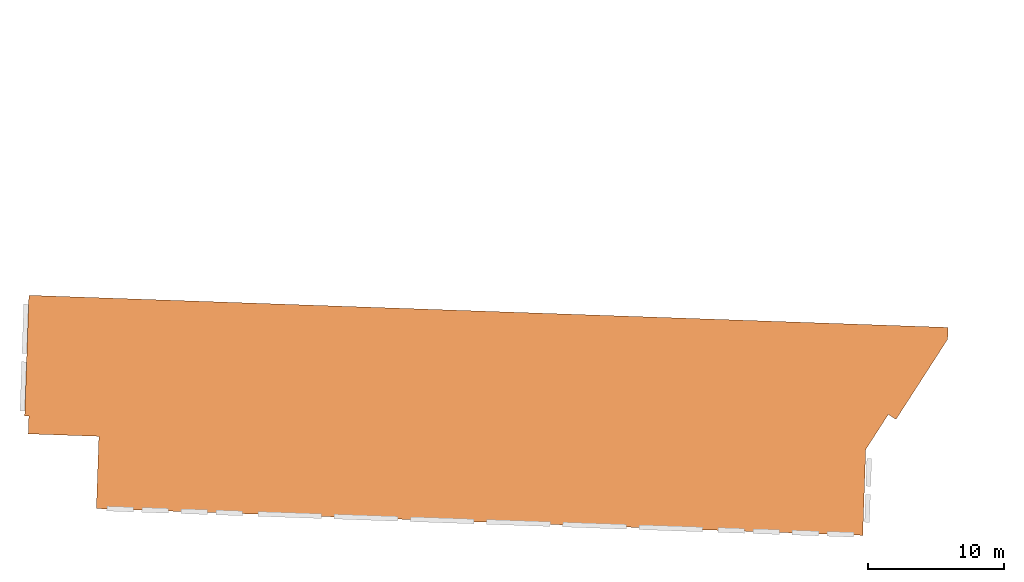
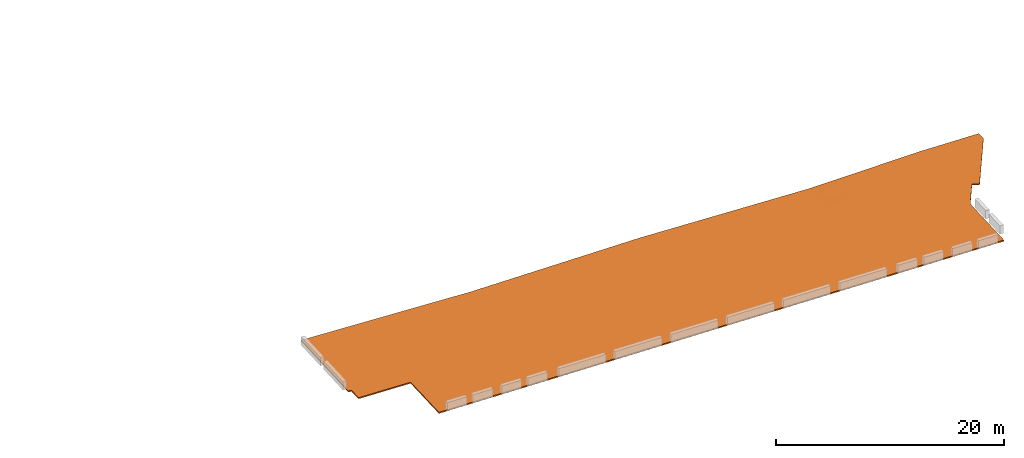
# One storey, part 7 of 8: 1 proxy.
"""IFC2X3 building model written with IfcOpenShell, lengths in feet."""

import ifcopenshell
import ifcopenshell.guid

model = None  # the IFC model being written
_history = None  # IfcOwnerHistory: only IFC2X3 demands one
_inside = {}  # id of a spatial element -> (the spatial element, [elements in it])
_under = {}  # id of a project, library or spatial element -> (it, [spatial elements below it])
_declared = {}  # id of a project -> (the project, [libraries it declares])
_typed = {}  # id of a type object -> (the type object, [elements of that type])
_made_of = {}  # id of a material, layer set ... -> (it, [elements and type objects made of it])


def new_model(schema):
    """Start an empty IFC model of exactly this schema.

    Asked for "IFC4X3", IfcOpenShell would pick the latest addendum, in which some entities
    have other attributes; the version numbers below select the first issue.
    IFC2X3 requires an IfcOwnerHistory on every rooted entity: one is made here for all.
    """
    global model, _history
    if schema == "IFC4X3":
        model = ifcopenshell.file(schema_version=(4, 3, 0, 0))
    else:
        model = ifcopenshell.file(schema=schema)
    _inside.clear()
    _under.clear()
    _declared.clear()
    _typed.clear()
    _made_of.clear()
    _history = None
    if model.schema == "IFC2X3":
        org = make("IfcOrganization", Name="unknown")
        user = make(
            "IfcPersonAndOrganization",
            ThePerson=make("IfcPerson", FamilyName="unknown"),
            TheOrganization=org,
        )
        app = make(
            "IfcApplication",
            ApplicationDeveloper=org,
            Version="unknown",
            ApplicationFullName="unknown",
            ApplicationIdentifier="unknown",
        )
        _history = make(
            "IfcOwnerHistory",
            OwningUser=user,
            OwningApplication=app,
            ChangeAction="ADDED",
            CreationDate=0,
        )
    return model


def make(cls, **values):
    """One entity of the class cls with the attributes given. An attribute that is None is left unset."""
    return model.create_entity(
        cls, **{name: value for name, value in values.items() if value is not None}
    )


def entity(cls, *values):
    """Any entity or typed value of the class cls, its attributes in the order of the schema. None: left unset."""
    e = model.create_entity(cls)
    for i, value in enumerate(values):
        if value is not None:
            e[i] = value
    return e


def rooted(cls, **values):
    """An entity with a GlobalId (a new one), such as an element, a storey or a relation."""
    return make(cls, GlobalId=ifcopenshell.guid.new(), OwnerHistory=_history, **values)


def si_unit(unit_type, name, prefix=None):
    """IfcSIUnit, for example si_unit("LENGTHUNIT", "METRE", prefix="MILLI")."""
    return make("IfcSIUnit", UnitType=unit_type, Prefix=prefix, Name=name)


def converted_unit(unit_type, name, factor, base, dimensions=None, offset=None):
    """IfcConversionBasedUnit, such as the inch: factor (a typed value) times the base unit."""
    return make(
        "IfcConversionBasedUnit"
        if offset is None
        else "IfcConversionBasedUnitWithOffset",
        ConversionOffset=offset,
        Dimensions=None
        if dimensions is None
        else entity("IfcDimensionalExponents", *dimensions),
        UnitType=unit_type,
        Name=name,
        ConversionFactor=make(
            "IfcMeasureWithUnit", ValueComponent=factor, UnitComponent=base
        ),
    )


def derived_unit(unit_type, elements):
    """IfcDerivedUnit: a product of units, each with its exponent."""
    return make(
        "IfcDerivedUnit",
        Elements=[
            make("IfcDerivedUnitElement", Unit=unit, Exponent=power)
            for unit, power in elements
        ],
        UnitType=unit_type,
    )


def assignment(units):
    """IfcUnitAssignment: the units of a project."""
    return None if units is None else make("IfcUnitAssignment", Units=units)


def point(xyz):
    """IfcCartesianPoint."""
    return None if xyz is None else make("IfcCartesianPoint", Coordinates=xyz)


def direction(xyz):
    """IfcDirection."""
    return None if xyz is None else make("IfcDirection", DirectionRatios=xyz)


def frame(location, z_axis=None, x_axis=None):
    """IfcAxis2Placement3D, a coordinate frame: its origin and axes. An axis left out is left unset."""
    return make(
        "IfcAxis2Placement3D",
        Location=point(location),
        Axis=direction(z_axis),
        RefDirection=direction(x_axis),
    )


def origin():
    """The frame at (0, 0, 0) with its axes left unset."""
    return frame((0.0, 0.0, 0.0))


def place(relative_to, where):
    """IfcLocalPlacement: puts the frame where relative to a parent placement (None: the world)."""
    return make(
        "IfcLocalPlacement", PlacementRelTo=relative_to, RelativePlacement=where
    )


def context(
    kind, dimensions, precision=None, world=None, true_north=None, identifier=None
):
    """IfcGeometricRepresentationContext, for example the 3D "Model" context."""
    return make(
        "IfcGeometricRepresentationContext",
        ContextIdentifier=identifier,
        ContextType=kind,
        CoordinateSpaceDimension=dimensions,
        Precision=precision,
        WorldCoordinateSystem=world,
        TrueNorth=true_north,
    )


def subcontext(parent, identifier, kind, view, scale=None):
    """IfcGeometricRepresentationSubContext, for example "Body" below "Model"."""
    return make(
        "IfcGeometricRepresentationSubContext",
        ContextIdentifier=identifier,
        ContextType=kind,
        ParentContext=parent,
        TargetScale=scale,
        TargetView=view,
    )


def project(units=None, contexts=None):
    """IfcProject with its units and contexts."""
    return rooted(
        "IfcProject",
        Name="project",
        RepresentationContexts=contexts,
        UnitsInContext=assignment(units),
    )


def spatial(cls, under=None, at=None, **own):
    """A site, building, storey or space (cls), placed at a placement, below another one or the project."""
    s = rooted(cls, ObjectPlacement=at, **own)
    if under is not None:
        _under.setdefault(under.id(), (under, []))[1].append(s)
    return s


def faces_of(points, faces, orient=None, outer=None):
    """IfcFace entities. A face is a list of loops; a loop is a list of indices into points, from 0.

    orient and outer hold one flag for each loop. By default every Orientation is true, the
    first loop of a face is its IfcFaceOuterBound and the others are IfcFaceBound.
    """
    made = []
    for i, loops in enumerate(faces):
        bounds = []
        for j, loop in enumerate(loops):
            is_outer = j == 0 if outer is None else outer[i][j]
            bounds.append(
                make(
                    "IfcFaceOuterBound" if is_outer else "IfcFaceBound",
                    Bound=make("IfcPolyLoop", Polygon=[points[k] for k in loop]),
                    Orientation=True if orient is None else orient[i][j],
                )
            )
        made.append(make("IfcFace", Bounds=bounds))
    return made


def faceted_brep(points, faces, orient=None, outer=None, voids=None):
    """IfcFacetedBrep: a solid bounded by flat faces; with voids (closed shells), ...WithVoids."""
    shared = [point(p) for p in points]
    hull = make("IfcClosedShell", CfsFaces=faces_of(shared, faces, orient, outer))
    if voids is None:
        return make("IfcFacetedBrep", Outer=hull)
    return make(
        "IfcFacetedBrepWithVoids",
        Outer=hull,
        Voids=[
            make(cls, CfsFaces=faces_of(shared, fs, o, b)) for cls, fs, o, b in voids
        ],
    )


def shape(context_of_items, identifier, shape_type, items):
    """IfcShapeRepresentation: the items that make up one representation, for example the "Body"."""
    return make(
        "IfcShapeRepresentation",
        ContextOfItems=context_of_items,
        RepresentationIdentifier=identifier,
        RepresentationType=shape_type,
        Items=items,
    )


def source(mapping_origin, context_of_items, identifier, shape_type, items):
    """IfcRepresentationMap: a shape defined once, which mapped items show again and again."""
    return make(
        "IfcRepresentationMap",
        MappingOrigin=mapping_origin,
        MappedRepresentation=shape(context_of_items, identifier, shape_type, items),
    )


def transform(
    local_origin,
    x_axis=None,
    y_axis=None,
    z_axis=None,
    scale=None,
    scale2=None,
    scale3=None,
    uniform=True,
):
    """IfcCartesianTransformationOperator3D, or its non-uniform kind. x_axis, y_axis, z_axis: its Axis1, 2, 3."""
    if uniform:
        return make(
            "IfcCartesianTransformationOperator3D",
            Axis1=direction(x_axis),
            Axis2=direction(y_axis),
            LocalOrigin=point(local_origin),
            Scale=scale,
            Axis3=direction(z_axis),
        )
    return make(
        "IfcCartesianTransformationOperator3DnonUniform",
        Axis1=direction(x_axis),
        Axis2=direction(y_axis),
        LocalOrigin=point(local_origin),
        Scale=scale,
        Axis3=direction(z_axis),
        Scale2=scale2,
        Scale3=scale3,
    )


def mapped(mapping_source, mapping_target):
    """IfcMappedItem: shows the shape of a source again, moved by a transform."""
    return make(
        "IfcMappedItem", MappingSource=mapping_source, MappingTarget=mapping_target
    )


def material(Name=None, Category=None):
    """IfcMaterial."""
    return make("IfcMaterial", Name=Name, Category=Category)


def made_of(thing, what):
    """Note that an element or type object is made of a material, layer set ...; save() writes the relation."""
    if what is not None:
        _made_of.setdefault(what.id(), (what, []))[1].append(thing)
    return thing


def type_object(cls, material=None, **own):
    """A type object (cls), such as IfcWallType, which elements share."""
    return made_of(rooted(cls, **own), material)


def type_shapes(of_type, sources):
    """Give a type object the sources (RepresentationMaps) that its elements show as mapped items."""
    of_type.RepresentationMaps = sources


def element(
    cls,
    number,
    at=None,
    inside=None,
    cuts=None,
    type_object=None,
    material=None,
    context=None,
    identifier="Body",
    shape_type=None,
    held_by="IfcProductDefinitionShape",
    body=None,
    shapes=None,
    **own,
):
    """One element of the class cls, such as IfcWall. Its Tag is "e" and its number.

    at: its placement. inside: the storey or other place that contains it. cuts: it is an
    opening in that element (IfcRelVoidsElement). A single representation is given by context,
    identifier, shape_type and body (its items); several are given by shapes. held_by: the class
    of the entity that holds the representations. save() writes the other relations.
    """
    e = rooted(cls, Tag="e%d" % number, ObjectPlacement=at, **own)
    if body is not None:
        shapes = [shape(context, identifier, shape_type, body)]
    if shapes is not None:
        e.Representation = make(held_by, Representations=shapes)
    if inside is not None:
        _inside.setdefault(inside.id(), (inside, []))[1].append(e)
    if cuts is not None:
        rooted(
            "IfcRelVoidsElement", RelatingBuildingElement=cuts, RelatedOpeningElement=e
        )
    if type_object is not None:
        _typed.setdefault(type_object.id(), (type_object, []))[1].append(e)
    return made_of(e, material)


def aggregate(whole, parts):
    """IfcRelAggregates: a whole, such as a stair, and the parts it consists of."""
    return rooted("IfcRelAggregates", RelatingObject=whole, RelatedObjects=parts)


def save(model, path):
    """Write the relations noted so far, then the file.

    IfcRelAggregates (storeys below a building ...), IfcRelContainedInSpatialStructure (elements
    in a storey), IfcRelDefinesByType, IfcRelAssociatesMaterial and IfcRelDeclares: one each for
    every whole, place, type object, material and project.
    """
    for whole, parts in _under.values():
        aggregate(whole, parts)
    for where, things in _inside.values():
        rooted(
            "IfcRelContainedInSpatialStructure",
            RelatedElements=things,
            RelatingStructure=where,
        )
    for kind, things in _typed.values():
        rooted("IfcRelDefinesByType", RelatedObjects=things, RelatingType=kind)
    for what, things in _made_of.values():
        rooted("IfcRelAssociatesMaterial", RelatedObjects=things, RelatingMaterial=what)
    for by, libraries in _declared.values():
        rooted("IfcRelDeclares", RelatingContext=by, RelatedDefinitions=libraries)
    model.write(path)


model = new_model("IFC2X3")

# Units and contexts
model_context = context("Model", 3, precision=0.0001, world=origin(), true_north=direction((0.999390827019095, 0.0348994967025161)))
body_context = subcontext(model_context, "Body", "Model", "MODEL_VIEW")
ifc_project = project(units=[converted_unit("LENGTHUNIT", "FOOT", entity("IfcRatioMeasure", 0.3048), si_unit("LENGTHUNIT", "METRE"), dimensions=[1, 0, 0, 0, 0, 0, 0]), converted_unit("AREAUNIT", "SQUARE FOOT", entity("IfcRatioMeasure", 0.09290304), si_unit("AREAUNIT", "SQUARE_METRE"), dimensions=[2, 0, 0, 0, 0, 0, 0]), converted_unit("VOLUMEUNIT", "CUBIC FOOT", entity("IfcRatioMeasure", 0.028316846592), si_unit("VOLUMEUNIT", "CUBIC_METRE"), dimensions=[3, 0, 0, 0, 0, 0, 0]), converted_unit("PLANEANGLEUNIT", "DEGREE", entity("IfcRatioMeasure", 0.0174532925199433), si_unit("PLANEANGLEUNIT", "RADIAN"), dimensions=[0, 0, 0, 0, 0, 0, 0]), si_unit("MASSUNIT", "GRAM", prefix="KILO"), si_unit("TIMEUNIT", "SECOND"), si_unit("FREQUENCYUNIT", "HERTZ"), si_unit("THERMODYNAMICTEMPERATUREUNIT", "DEGREE_CELSIUS"), derived_unit("THERMALTRANSMITTANCEUNIT", [(si_unit("MASSUNIT", "GRAM", prefix="KILO"), 1), (si_unit("THERMODYNAMICTEMPERATUREUNIT", "KELVIN"), -1), (si_unit("TIMEUNIT", "SECOND"), -3)]), derived_unit("VOLUMETRICFLOWRATEUNIT", [(si_unit("LENGTHUNIT", "METRE"), 3), (si_unit("TIMEUNIT", "SECOND"), -1)]), si_unit("ELECTRICCURRENTUNIT", "AMPERE"), si_unit("ELECTRICVOLTAGEUNIT", "VOLT"), si_unit("POWERUNIT", "WATT"), si_unit("FORCEUNIT", "NEWTON"), si_unit("ILLUMINANCEUNIT", "LUX"), si_unit("LUMINOUSFLUXUNIT", "LUMEN"), si_unit("LUMINOUSINTENSITYUNIT", "CANDELA"), derived_unit("USERDEFINED", [(si_unit("MASSUNIT", "GRAM", prefix="KILO"), -1), (si_unit("LENGTHUNIT", "METRE"), -2), (si_unit("TIMEUNIT", "SECOND"), 3), (si_unit("LUMINOUSFLUXUNIT", "LUMEN"), 1)]), derived_unit("LINEARVELOCITYUNIT", [(si_unit("LENGTHUNIT", "METRE"), 1), (si_unit("TIMEUNIT", "SECOND"), -1)]), si_unit("PRESSUREUNIT", "PASCAL"), derived_unit("USERDEFINED", [(si_unit("LENGTHUNIT", "METRE"), -2), (si_unit("MASSUNIT", "GRAM", prefix="KILO"), 1), (si_unit("TIMEUNIT", "SECOND"), -2)])], contexts=[model_context])

# Site, building, storey
site_placement = place(None, frame((892.518771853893, 322.38689265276, 0.00393700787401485), z_axis=(0.0, 0.0, 1.0), x_axis=(0.0348994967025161, 0.999390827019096, 0.0)))
site = spatial("IfcSite", under=ifc_project, at=site_placement, Name="Default", CompositionType="ELEMENT")
building_placement = place(site_placement, origin())
building = spatial("IfcBuilding", under=site, at=building_placement, CompositionType="ELEMENT")
storey_placement = place(building_placement, frame((0.0, 0.0, 607.0)))
storey = spatial("IfcBuildingStorey", under=building, at=storey_placement, Name="Existing Garage - Roof Level", CompositionType="ELEMENT", Elevation=607.0)

# Proxy
ifc_material = material(Name="Conc Slab")
building_element_proxy_type = type_object("IfcBuildingElementProxyType", Name="URMC Exist Garage A1-G4 1st Floor", PredefinedType="NOTDEFINED", material=ifc_material)
shared_shape = source(origin(), body_context, "Body", "Brep", [
    faceted_brep([(-20.0, -55.0, -0.41666666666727), (-10.0, -55.0, -0.651666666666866), (-5.0, -55.0, -0.769166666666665), (0.0, -55.0, -0.886666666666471), (7.5000000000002, -55.0, -1.06166666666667), (15.0, -55.0, -1.23666666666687), (22.1905010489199, -55.0, -1.40444502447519), (26.09525052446, -55.0, -1.49555584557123), (30.0, -55.0, -1.58666666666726), (30.0, -55.0, -1.1700000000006), (22.8094989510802, -55.0, -1.00222164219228), (18.9047494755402, -55.0, -0.911110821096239), (15.0, -55.0, -0.8200000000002), (7.5000000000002, -55.0, -0.645000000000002), (0.0, -55.0, -0.469999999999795), (-10.0, -55.0, -0.235000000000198), (-13.9877755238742, -55.0, -0.141287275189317), (-20.0, -55.0, 0.0), (-20.6666666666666, -55.0, 0.0), (-20.6666666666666, -55.0, -0.416666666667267), (30.0, 0.333333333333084, -0.416666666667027), (22.8094991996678, 0.333333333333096, -0.416666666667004), (18.904749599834, 0.333333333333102, -0.416666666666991), (15.0, 0.333333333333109, -0.416666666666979), (8.80986514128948, 0.333333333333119, -0.416666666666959), (4.90493257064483, 0.333333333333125, -0.416666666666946), (1.0, 0.333333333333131, -0.416666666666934), (1.0, 0.333333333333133, 0.0), (4.90493259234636, 0.333333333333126, 0.0), (8.80986518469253, 0.33333333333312, 0.0), (15.0, 0.33333333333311, 0.0), (22.1905008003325, 0.333333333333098, 0.0), (26.0952504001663, 0.333333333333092, 0.0), (30.0, 0.333333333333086, 0.0), (-20.6666666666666, -17.6666666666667, 0.0), (-20.6666666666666, -17.6666666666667, -0.416666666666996), (-20.0, -17.6666666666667, -0.416666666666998), (-20.0, -34.3004878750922, -0.416666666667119), (-12.5740740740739, -17.6666666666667, -0.473434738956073), (-10.7175925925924, -17.6666666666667, -0.487626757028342), (-8.86111111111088, -17.6666666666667, -0.501818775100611), (-11.6458347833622, -36.5226943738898, -0.547431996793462), (-16.2870370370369, -17.6666666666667, -0.445050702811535), (-14.4305555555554, -17.6666666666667, -0.459242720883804), (-3.29166666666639, -17.6666666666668, -0.544394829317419), (0.0, -14.250000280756, -0.540537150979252), (0.0, -15.0715290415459, -0.547515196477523), (0.0, -27.8333333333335, -0.6559136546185), (-3.29166666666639, -13.888888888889, -0.517587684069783), (-3.29166666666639, -12.0, -0.504184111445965), (-3.29166666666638, -10.1111111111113, -0.490780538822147), (-3.29166666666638, -8.22222222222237, -0.477376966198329), (-3.29166666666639, -15.7777777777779, -0.530991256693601), (-5.14814814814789, -17.6666666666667, -0.530202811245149), (-5.59903228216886, -34.4748037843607, -0.629555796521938), (-7.00462962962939, -17.6666666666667, -0.51601079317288), (-18.1435185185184, -17.6666666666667, -0.430858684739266), (0.0, -29.476391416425, -0.669869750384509), (-3.29166666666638, -4.44444444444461, -0.450569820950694), (-3.29166666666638, -2.55555555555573, -0.437166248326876), (-3.29166666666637, -0.666666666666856, -0.423762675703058), (-2.92592592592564, -0.666666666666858, -0.423918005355), (-2.56018518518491, -0.666666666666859, -0.424073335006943), (-2.19444444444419, -0.66666666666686, -0.424228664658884), (-1.82870370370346, -0.666666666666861, -0.424383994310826), (-1.46296296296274, -0.666666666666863, -0.424539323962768), (-1.09722222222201, -0.666666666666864, -0.42469465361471), (-0.731481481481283, -0.666666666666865, -0.424849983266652), (-3.29166666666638, -6.33333333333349, -0.463973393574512), (-0.365740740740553, -0.666666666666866, -0.425005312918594), (0.0, -0.666666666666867, -0.425160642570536), (-0.365740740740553, -0.666666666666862, -0.00833864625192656), (-0.731481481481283, -0.666666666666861, -0.00818331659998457), (0.0, -14.2500000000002, -0.12387048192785), (0.0, -0.666666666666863, -0.00849397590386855), (-3.29166666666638, -8.22222222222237, -0.0607102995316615), (-3.29166666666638, -6.33333333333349, -0.0473067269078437), (-1.09722222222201, -0.66666666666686, -0.00802798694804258), (-1.46296296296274, -0.666666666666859, -0.00787265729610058), (-1.82870370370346, -0.666666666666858, -0.0077173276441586), (-2.19444444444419, -0.666666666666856, -0.00756199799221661), (-2.56018518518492, -0.666666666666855, -0.00740666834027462), (-2.92592592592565, -0.666666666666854, -0.00725133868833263), (-3.29166666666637, -0.666666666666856, -0.00709600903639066), (-3.29166666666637, -2.55555555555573, -0.0204995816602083), (-3.29166666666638, -4.44444444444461, -0.033903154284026), (-13.9378433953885, -34.3833515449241, -0.0893812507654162), (-20.0, -34.3004875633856, 0.0), (-12.5740740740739, -17.6666666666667, -0.0567680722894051), (-14.4305555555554, -17.6666666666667, -0.042576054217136), (-16.2870370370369, -17.6666666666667, -0.0283840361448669), (-10.7175925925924, -17.6666666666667, -0.0709600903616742), (-3.29166666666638, -10.1111111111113, -0.0741138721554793), (-3.29166666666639, -12.0, -0.0875174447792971), (-3.29166666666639, -13.888888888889, -0.100921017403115), (-3.29166666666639, -15.7777777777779, -0.114324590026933), (-3.2916666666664, -17.6666666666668, -0.127728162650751), (-7.93286850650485, -36.6830543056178, -0.189705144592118), (0.0, -29.4763908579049, -0.253203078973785), (0.0, -27.8333333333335, -0.239246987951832), (-5.14814814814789, -17.6666666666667, -0.113536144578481), (0.0, -15.0715287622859, -0.130848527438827), (-7.00462962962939, -17.6666666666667, -0.0993441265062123), (-8.86111111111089, -17.6666666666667, -0.0851521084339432), (-18.1435185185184, -17.6666666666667, -0.0141920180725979), (-20.0, -17.6666666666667, 0.0), (0.250000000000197, -0.666666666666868, -0.00859939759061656), (0.500000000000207, -0.666666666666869, -0.0087048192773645), (0.750000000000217, -0.66666666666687, -0.00881024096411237), (1.0, -0.66666666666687, -0.00891566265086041), (1.0, -0.66666666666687, -0.425582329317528), (0.750000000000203, -0.66666666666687, -0.42547690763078), (0.500000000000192, -0.666666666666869, -0.425371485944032), (0.250000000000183, -0.666666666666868, -0.425266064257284), (1.0, -0.166666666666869, -0.421124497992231), (1.0, -0.41666666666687, -0.42335341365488), (1.0, -0.416666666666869, -0.00668674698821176), (1.0, -0.166666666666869, -0.0044578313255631), (1.0, 0.0833333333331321, -0.00222891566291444), (1.0, 0.0833333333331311, -0.418895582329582), (11.1962408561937, -15.6577053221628, -0.627992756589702), (10.7739407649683, -31.7992304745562, -0.83558545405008), (15.0, -27.3333333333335, -0.826666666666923), (15.0, -40.5958125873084, -1.02320702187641), (6.85739956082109, -24.4344512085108, -0.698664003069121), (7.21404979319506, -39.7071127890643, -0.878575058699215), (15.0, -26.1916251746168, -0.809747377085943), (20.251104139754, -19.1054514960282, -0.747779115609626), (25.1652703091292, -15.8962002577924, -0.726745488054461), (30.0, -14.0708535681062, -0.721237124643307), (30.0, -28.4750404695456, -1.02580758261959), (24.1428761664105, -33.9154324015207, -1.0562523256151), (19.0029258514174, -39.2111456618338, -1.06943757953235), (30.0, -26.1916251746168, -0.560859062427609), (30.0, -40.5958125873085, -0.865429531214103), (24.7488958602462, -19.1054514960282, -0.367981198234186), (19.834729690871, -15.8962002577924, -0.273597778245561), (15.0, -14.0708535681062, -0.213459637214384), (15.0, -27.3333333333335, -0.410000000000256), (15.0, -28.4750404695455, -0.426919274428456), (20.8571238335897, -33.9154324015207, -0.592132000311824), (25.9970741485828, -39.2111456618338, -0.769401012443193), (7.21404852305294, -39.7071122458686, -0.461908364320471), (6.85739830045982, -24.4344495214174, -0.281997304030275), (11.1962404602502, -15.6577081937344, -0.211326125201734), (10.773940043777, -31.7992331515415, -0.418918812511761)], [[[0, 1, 2, 3, 4, 5, 6, 7, 8, 9, 10, 11, 12, 13, 14, 15, 16, 17, 18, 19]], [[20, 21, 22, 23, 24, 25, 26, 27, 28, 29, 30, 31, 32, 33]], [[18, 34, 35, 19]], [[19, 35, 36, 37, 0]], [[38, 39, 40, 41, 42, 43]], [[44, 45, 46, 47]], [[48, 49, 50, 51, 45, 44, 52]], [[53, 44, 54, 40, 55]], [[0, 37, 41]], [[37, 36, 56, 42]], [[41, 54, 1]], [[1, 54, 3, 2]], [[54, 47, 57, 3]], [[41, 37, 42]], [[0, 41, 1]], [[40, 54, 41]], [[44, 47, 54]], [[58, 59, 60, 61, 62, 63, 64, 65, 66, 67, 51, 68]], [[69, 70, 45, 67]], [[67, 45, 51]], [[71, 72, 73, 74]], [[75, 73, 72]], [[76, 75, 72, 77, 78, 79, 80, 81, 82, 83, 84, 85]], [[16, 86, 87]], [[88, 89, 90, 86, 91]], [[92, 93, 94, 95, 96, 73, 75]], [[97, 14, 98, 99]], [[86, 90, 87]], [[100, 99, 101, 73, 96]], [[100, 102, 103, 91, 97]], [[100, 97, 99]], [[86, 97, 91]], [[104, 105, 87, 90]], [[87, 17, 16]], [[86, 15, 97]], [[15, 86, 16]], [[14, 97, 15]], [[18, 17, 87, 105, 34]], [[93, 92, 75, 76, 85, 84, 83, 60, 59, 58, 68, 51, 50, 49, 48, 52, 44, 96, 95, 94]], [[62, 61, 60, 83, 82, 81, 80, 79, 78, 77, 72, 71, 74, 106, 107, 108, 109, 110, 111, 112, 113, 70, 69, 67, 66, 65, 64, 63]], [[114, 115, 110, 109, 116, 117, 118, 27, 26, 119]], [[36, 35, 34, 105, 104, 90, 89, 88, 91, 103, 102, 100, 96, 44, 53, 55, 40, 39, 38, 43, 42, 56]], [[23, 120, 24]], [[121, 122, 123, 5]], [[4, 121, 5]], [[110, 46, 45, 70, 113, 112, 111]], [[24, 120, 124]], [[110, 25, 46]], [[124, 46, 25]], [[125, 124, 121]], [[120, 23, 126, 122]], [[119, 26, 25, 110, 115, 114]], [[124, 25, 24]], [[57, 124, 125]], [[124, 57, 47, 46]], [[125, 3, 57]], [[121, 120, 122]], [[121, 124, 120]], [[121, 4, 125]], [[125, 4, 3]], [[127, 23, 22, 21]], [[128, 20, 129, 130]], [[6, 131, 7]], [[6, 132, 131]], [[132, 5, 123, 122, 126]], [[127, 128, 131]], [[130, 7, 131]], [[130, 8, 7]], [[131, 132, 127]], [[5, 132, 6]], [[127, 132, 126]], [[128, 127, 21]], [[20, 128, 21]], [[130, 131, 128]], [[23, 127, 126]], [[9, 8, 130, 129, 20, 33, 133, 134]], [[135, 33, 32, 31]], [[136, 30, 137, 138, 139]], [[10, 140, 11]], [[10, 141, 140]], [[141, 9, 134, 133]], [[135, 136, 140]], [[139, 11, 140]], [[139, 12, 11]], [[140, 141, 135]], [[9, 141, 10]], [[135, 141, 133]], [[136, 135, 31]], [[30, 136, 31]], [[139, 140, 136]], [[33, 135, 133]], [[142, 98, 14]], [[108, 107, 106, 74, 73, 101, 109]], [[143, 28, 101]], [[138, 144, 145]], [[117, 116, 109, 28, 27, 118]], [[29, 28, 143]], [[12, 145, 13]], [[145, 144, 143]], [[144, 138, 137, 30]], [[142, 14, 13]], [[144, 29, 143]], [[109, 101, 28]], [[143, 101, 99, 98]], [[145, 12, 139, 138]], [[143, 142, 145]], [[29, 144, 30]], [[98, 142, 143]], [[13, 145, 142]]]),
    faceted_brep([(30.0, -202.0, 0.0), (0.0, -202.0, 0.0), (8.58968833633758, -207.120278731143, 0.0), (7.46506598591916, -209.006925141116, 0.0), (27.1650390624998, -220.75, 0.0), (30.0, -220.75, 0.0), (30.0, -202.0, -0.416666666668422), (30.0, -220.75, -0.416666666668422), (27.1650390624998, -220.75, -0.416666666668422), (7.46506598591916, -209.006925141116, -0.416666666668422), (8.58968833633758, -207.120278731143, -0.416666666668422), (0.0, -202.0, -0.416666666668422)], [[[0, 1, 2, 3, 4, 5]], [[6, 7, 8, 9, 10, 11]], [[1, 0, 6, 11]], [[2, 1, 11, 10]], [[3, 2, 10, 9]], [[4, 3, 9, 8]], [[5, 4, 8, 7]], [[0, 5, 7, 6]]]),
    faceted_brep([(-20.6666666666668, -165.0, 0.0), (-20.0, -165.0, 0.0), (-13.6761632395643, -165.0, -0.148610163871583), (-7.35232647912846, -165.0, -0.297220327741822), (0.0, -165.0, -0.47000000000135), (9.0037052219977, -165.0, -0.680086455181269), (18.0074104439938, -165.0, -0.890172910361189), (25.4981473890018, -165.0, -1.06495677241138), (30.0, -165.0, -1.17000000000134), (30.0, -165.0, -1.58666666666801), (20.9962947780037, -165.0, -1.37658021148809), (11.9925895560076, -165.0, -1.16649375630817), (4.50185261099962, -165.0, -0.991709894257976), (0.0, -165.0, -0.886666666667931), (-6.32383676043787, -165.0, -0.738056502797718), (-12.6476735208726, -165.0, -0.589446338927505), (-20.0, -165.0, -0.416666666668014), (-20.6666666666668, -165.0, -0.416666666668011), (-20.6666666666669, -202.0, -0.41666666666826), (-20.0, -202.0, -0.416666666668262), (-12.6476733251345, -202.0, -0.416666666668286), (-6.32383666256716, -202.0, -0.416666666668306), (0.0, -202.0, -0.416666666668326), (9.00370527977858, -202.0, -0.416666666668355), (15.0, -202.0, -0.416666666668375), (20.9962947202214, -202.0, -0.416666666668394), (30.0, -202.0, -0.416666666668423), (30.0, -202.0, 0.0), (20.9962947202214, -202.0, 0.0), (15.0, -202.0, 0.0), (9.00370527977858, -202.0, 0.0), (0.0, -202.0, 0.0), (-7.35232667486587, -202.0, 0.0), (-13.676163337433, -202.0, 0.0), (-20.0, -202.0, 0.0), (-20.6666666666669, -202.0, 0.0), (-20.0, -183.5, 0.0), (0.0, -188.398195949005, -0.172779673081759), (-9.99999899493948, -183.499998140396, -0.117500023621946), (0.0, -178.601803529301, -0.297220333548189), (0.0, -183.5, -0.235000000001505), (0.0, -174.25, -0.352500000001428), (0.0, -181.656853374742, -0.675079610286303), (0.0, -183.5, -0.651666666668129), (-20.0, -178.601804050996, -0.416666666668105), (-20.0, -188.398195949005, -0.416666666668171), (-10.0000010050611, -183.499998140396, -0.53416666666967), (0.0, -191.828426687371, -0.545873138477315), (17.9981488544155, -183.915731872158, -0.434978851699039), (21.7527798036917, -174.464150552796, -0.727515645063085), (16.3929501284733, -174.455166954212, -0.634649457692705), (5.45135066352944, -176.072640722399, -0.41848031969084), (24.1185436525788, -184.958768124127, -0.47566500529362), (30.0, -181.656853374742, -0.643283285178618), (10.9233067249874, -174.475221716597, -0.539245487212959), (30.0, -191.828426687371, -0.321641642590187), (8.99746617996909, -183.946109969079, -0.331772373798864), (30.0, -183.5, -1.00166666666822), (30.0, -174.25, -1.29416666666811), (12.0018511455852, -183.915731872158, -0.783260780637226), (8.24722019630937, -174.464150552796, -0.909658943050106), (13.6070498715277, -174.455166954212, -1.0029233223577), (24.5486493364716, -176.072640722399, -1.14739902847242), (5.88145634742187, -184.958768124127, -0.696342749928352), (19.0766932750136, -174.475221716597, -1.09743837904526), (21.0025338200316, -183.946109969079, -0.885120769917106)], [[[0, 1, 2, 3, 4, 5, 6, 7, 8, 9, 10, 11, 12, 13, 14, 15, 16, 17]], [[18, 19, 20, 21, 22, 23, 24, 25, 26, 27, 28, 29, 30, 31, 32, 33, 34, 35]], [[2, 1, 36]], [[32, 31, 37]], [[38, 39, 3]], [[38, 32, 37]], [[38, 37, 40, 39]], [[36, 33, 38]], [[3, 39, 41, 4]], [[2, 36, 38]], [[38, 3, 2]], [[38, 33, 32]], [[36, 1, 0, 35, 34, 33]], [[14, 13, 42, 43]], [[20, 19, 18, 17, 16, 44, 45]], [[46, 44, 15]], [[46, 20, 45]], [[44, 46, 45]], [[43, 21, 46]], [[44, 16, 15]], [[14, 43, 46]], [[46, 15, 14]], [[46, 21, 20]], [[21, 43, 47, 23, 22]], [[17, 18, 35, 0]], [[28, 48, 29]], [[49, 6, 50]], [[51, 4, 41, 39, 40]], [[49, 52, 53]], [[6, 49, 7]], [[54, 50, 6]], [[28, 55, 52]], [[50, 54, 48]], [[31, 30, 29, 56]], [[56, 29, 48]], [[50, 48, 49]], [[53, 8, 7]], [[52, 49, 48]], [[53, 7, 49]], [[48, 28, 52]], [[5, 54, 6]], [[55, 28, 27]], [[55, 53, 52]], [[56, 54, 51]], [[56, 40, 37, 31]], [[51, 40, 56]], [[48, 54, 56]], [[51, 5, 4]], [[5, 51, 54]], [[26, 57, 58, 9, 8, 53, 55, 27]], [[23, 59, 24]], [[60, 11, 61]], [[62, 9, 58, 57]], [[60, 63, 42]], [[11, 60, 12]], [[64, 61, 11]], [[23, 47, 63]], [[61, 64, 59]], [[26, 25, 24, 65]], [[65, 24, 59]], [[61, 59, 60]], [[42, 13, 12]], [[63, 60, 59]], [[42, 12, 60]], [[59, 23, 63]], [[10, 64, 11]], [[63, 47, 43, 42]], [[65, 64, 62]], [[26, 65, 57]], [[62, 57, 65]], [[59, 64, 65]], [[62, 10, 9]], [[10, 62, 64]]]),
    faceted_brep([(-20.6666666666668, -165.0, 0.0), (-20.6666666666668, -165.0, -0.416666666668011), (-20.0, -165.0, -0.416666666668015), (0.0, -165.0, -0.886666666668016), (15.0, -165.0, -1.23666666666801), (30.0, -165.0, -1.58666666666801), (30.0, -165.0, -1.17000000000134), (15.0, -165.0, -0.820000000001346), (0.0, -165.0, -0.470000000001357), (-20.0, -165.0, 0.0), (-20.6666666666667, -110.0, -0.416666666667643), (-20.6666666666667, -110.0, 0.0), (-20.0, -110.0, 0.0), (0.0, -110.0, -0.470000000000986), (13.3825266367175, -110.0, -0.407548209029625), (21.6912633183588, -110.0, -0.368774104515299), (30.0, -110.0, -0.330000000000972), (30.0, -110.0, -0.746666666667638), (16.6174733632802, -110.0, -0.809118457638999), (8.30873668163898, -110.0, -0.847892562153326), (0.0, -110.0, -0.886666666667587), (-20.0, -110.0, -0.416666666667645), (0.0, -120.155122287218, -0.88666666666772), (0.0, -130.310244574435, -0.886666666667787), (0.0, -144.689755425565, -0.886666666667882), (0.0, -154.844877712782, -0.886666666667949), (0.0, -151.25, -0.470000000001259), (0.0, -137.5, -0.470000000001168), (0.0, -120.1551222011, -0.470000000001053), (17.2873447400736, -147.002653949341, -1.13164646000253), (30.0, -151.25, -1.37666666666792), (30.0, -137.5, -1.16666666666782), (16.3240091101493, -128.827558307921, -0.966952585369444), (30.0, -120.1551222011, -0.901763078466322), (13.2726015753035, -119.339312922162, -0.887833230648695), (8.02165536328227, -127.260649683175, -0.919720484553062), (8.64423343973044, -137.500002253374, -0.967346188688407), (21.6843579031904, -118.27528224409, -0.876826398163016), (8.41142000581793, -148.439377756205, -1.01201761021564), (30.0, -120.155122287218, -0.485096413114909), (30.0, -130.310244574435, -0.640192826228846), (30.0, -144.689755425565, -0.859807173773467), (30.0, -154.844877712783, -1.0149035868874), (12.7126552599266, -147.002653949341, -0.650151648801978), (13.6759908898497, -128.827558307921, -0.537262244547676), (16.7273984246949, -119.339312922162, -0.471470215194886), (21.9783446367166, -127.260649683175, -0.560563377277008), (21.3557665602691, -137.500002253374, -0.669320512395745), (8.31564209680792, -118.27528224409, -0.466226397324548), (21.5885799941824, -148.439377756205, -0.791723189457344)], [[[0, 1, 2, 3, 4, 5, 6, 7, 8, 9]], [[10, 11, 12, 13, 14, 15, 16, 17, 18, 19, 20, 21]], [[0, 11, 10, 1]], [[1, 10, 21, 2]], [[2, 21, 20, 22, 23, 24, 25, 3]], [[9, 8, 26, 27, 28, 13, 12]], [[9, 12, 11, 0]], [[4, 29, 30]], [[31, 32, 33]], [[34, 35, 22]], [[30, 5, 4]], [[35, 36, 23]], [[17, 33, 37]], [[32, 34, 37]], [[32, 36, 35]], [[29, 32, 31]], [[23, 36, 24]], [[4, 25, 38]], [[36, 38, 24]], [[32, 29, 36]], [[38, 36, 29]], [[29, 4, 38]], [[22, 20, 19]], [[25, 4, 3]], [[25, 24, 38]], [[19, 18, 34]], [[35, 23, 22]], [[35, 34, 32]], [[19, 34, 22]], [[37, 34, 18]], [[17, 37, 18]], [[32, 37, 33]], [[29, 31, 30]], [[6, 5, 30, 31, 33, 17, 16, 39, 40, 41, 42]], [[7, 43, 26]], [[27, 44, 28]], [[45, 46, 39]], [[26, 8, 7]], [[46, 47, 40]], [[13, 28, 48]], [[44, 45, 48]], [[44, 47, 46]], [[43, 44, 27]], [[40, 47, 41]], [[7, 42, 49]], [[47, 49, 41]], [[44, 43, 47]], [[49, 47, 43]], [[43, 7, 49]], [[39, 16, 15]], [[42, 7, 6]], [[42, 41, 49]], [[15, 14, 45]], [[46, 40, 39]], [[46, 45, 44]], [[15, 45, 39]], [[48, 45, 14]], [[13, 48, 14]], [[44, 48, 28]], [[43, 27, 26]]]),
    faceted_brep([(-20.6666666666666, -55.0, 0.0), (-20.0, -55.0, 0.0), (0.0, -55.0, -0.469999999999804), (15.0, -55.0, -0.820000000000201), (30.0, -55.0, -1.1700000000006), (30.0, -55.0, -1.58666666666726), (15.0, -55.0, -1.23666666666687), (0.0, -55.0, -0.886666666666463), (-20.0, -55.0, -0.416666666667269), (-20.6666666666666, -55.0, -0.416666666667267), (-20.6666666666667, -110.0, -0.416666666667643), (-20.0, -110.0, -0.416666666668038), (0.0, -110.0, -0.886666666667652), (13.3825266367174, -110.0, -0.824214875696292), (21.6912633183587, -110.0, -0.785440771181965), (30.0, -110.0, -0.746666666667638), (30.0, -110.0, -0.330000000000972), (16.6174733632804, -110.0, -0.392451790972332), (8.30873668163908, -110.0, -0.431225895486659), (0.0, -110.0, -0.47000000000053), (-20.0, -110.0, 0.0), (-20.6666666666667, -110.0, 0.0), (0.0, -99.8448777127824, -0.470000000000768), (0.0, -89.6897554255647, -0.47000000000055), (0.0, -75.3102445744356, -0.47000000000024), (0.0, -65.1551222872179, -0.470000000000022), (0.0, -68.7500000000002, -0.886666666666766), (0.0, -82.5000000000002, -0.886666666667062), (0.0, -99.8448777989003, -0.886666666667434), (17.2873447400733, -72.9973460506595, -0.714979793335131), (30.0, -68.7500000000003, -0.960000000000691), (30.0, -82.5000000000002, -0.750000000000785), (16.324009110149, -91.1724416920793, -0.550285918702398), (30.0, -99.8448777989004, -0.485096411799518), (13.2726015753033, -100.660687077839, -0.471166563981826), (8.02165536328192, -92.7393503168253, -0.503053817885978), (8.64423343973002, -82.4999977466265, -0.550679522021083), (21.6843579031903, -101.72471775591, -0.460159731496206), (8.41142000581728, -71.5606222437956, -0.595350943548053), (30.0, -99.8448777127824, -0.90176307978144), (30.0, -89.6897554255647, -1.05685949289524), (30.0, -75.3102445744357, -1.27647384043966), (30.0, -65.155122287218, -1.43157025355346), (12.7126552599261, -72.9973460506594, -1.06681831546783), (13.6759908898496, -91.1724416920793, -0.95392891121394), (16.7273984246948, -100.660687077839, -0.888136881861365), (21.9783446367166, -92.7393503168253, -0.977230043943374), (21.355766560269, -82.4999977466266, -1.08598717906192), (8.3156420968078, -101.72471775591, -0.882893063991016), (21.5885799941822, -71.5606222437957, -1.20838985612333)], [[[0, 1, 2, 3, 4, 5, 6, 7, 8, 9]], [[10, 11, 12, 13, 14, 15, 16, 17, 18, 19, 20, 21]], [[0, 21, 20, 1]], [[1, 20, 19, 22, 23, 24, 25, 2]], [[8, 7, 26, 27, 28, 12, 11]], [[8, 11, 10, 9]], [[9, 10, 21, 0]], [[3, 29, 30]], [[31, 32, 33]], [[34, 35, 22]], [[30, 4, 3]], [[35, 36, 23]], [[16, 33, 37]], [[32, 34, 37]], [[32, 36, 35]], [[29, 32, 31]], [[23, 36, 24]], [[3, 25, 38]], [[36, 38, 24]], [[32, 29, 36]], [[38, 36, 29]], [[29, 3, 38]], [[22, 19, 18]], [[25, 3, 2]], [[25, 24, 38]], [[18, 17, 34]], [[35, 23, 22]], [[35, 34, 32]], [[18, 34, 22]], [[37, 34, 17]], [[16, 37, 17]], [[32, 37, 33]], [[29, 31, 30]], [[15, 39, 40, 41, 42, 5, 4, 30, 31, 33, 16]], [[6, 43, 26]], [[27, 44, 28]], [[45, 46, 39]], [[26, 7, 6]], [[46, 47, 40]], [[12, 28, 48]], [[44, 45, 48]], [[44, 47, 46]], [[43, 44, 27]], [[40, 47, 41]], [[6, 42, 49]], [[47, 49, 41]], [[44, 43, 47]], [[49, 47, 43]], [[43, 6, 49]], [[39, 15, 14]], [[42, 6, 5]], [[42, 41, 49]], [[14, 13, 45]], [[46, 40, 39]], [[46, 45, 44]], [[14, 45, 39]], [[48, 45, 13]], [[12, 48, 13]], [[44, 48, 28]], [[43, 27, 26]]]),
])
type_shapes(building_element_proxy_type, [shared_shape])
proxy_placement = place(storey_placement, frame((-170.072745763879, 456.763953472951, 0.0)))
element("IfcBuildingElementProxy", 1, at=proxy_placement, inside=storey, type_object=building_element_proxy_type, material=ifc_material, Name="URMC Exist Garage A1-G4 1st Floor:URMC Exist Garage A1-G4 1st Floor", ObjectType="URMC Exist Garage A1-G4 1st Floor", context=body_context, shape_type="MappedRepresentation", body=[
    mapped(shared_shape, transform((0.0, 0.0, 0.0), scale=1.0)),
])

save(model, "model.ifc")
